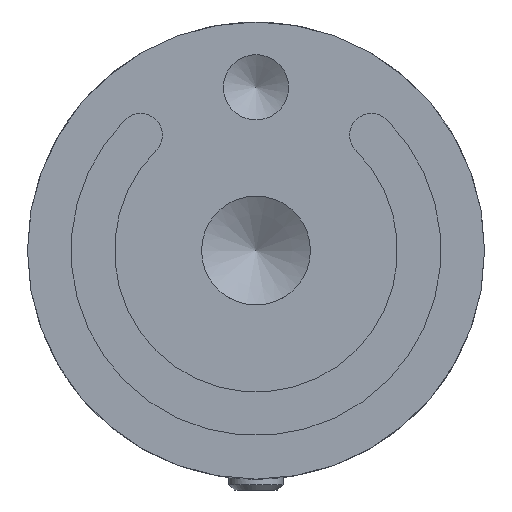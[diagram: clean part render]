
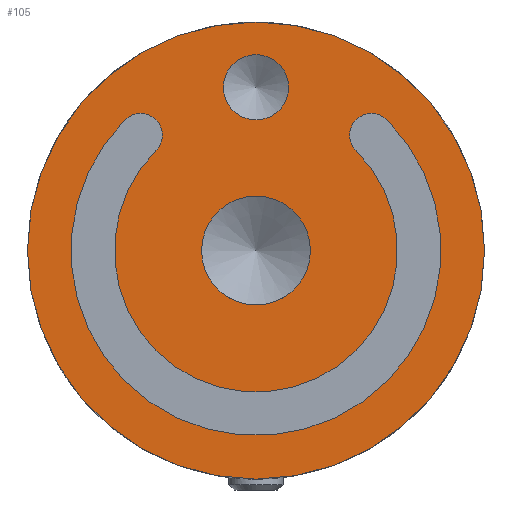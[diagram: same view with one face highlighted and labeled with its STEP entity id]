
A CAD part, front view. The second image highlights one B-rep face of the part: STEP entity #105.
In plain terms, the highlighted planar face has unit normal (0, -1, 0).
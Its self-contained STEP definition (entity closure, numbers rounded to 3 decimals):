
#105 = ADVANCED_FACE( '', ( #188, #189, #190, #191 ), #192, .F. );
#188 = FACE_BOUND( '', #289, .T. );
#189 = FACE_BOUND( '', #290, .T. );
#190 = FACE_OUTER_BOUND( '', #291, .T. );
#191 = FACE_BOUND( '', #292, .T. );
#192 = PLANE( '', #293 );
#289 = EDGE_LOOP( '', ( #545 ) );
#290 = EDGE_LOOP( '', ( #546, #547, #548, #549 ) );
#291 = EDGE_LOOP( '', ( #550 ) );
#292 = EDGE_LOOP( '', ( #551 ) );
#293 = AXIS2_PLACEMENT_3D( '', #552, #553, #554 );
#545 = ORIENTED_EDGE( '', *, *, #726, .F. );
#546 = ORIENTED_EDGE( '', *, *, #668, .T. );
#547 = ORIENTED_EDGE( '', *, *, #664, .T. );
#548 = ORIENTED_EDGE( '', *, *, #667, .F. );
#549 = ORIENTED_EDGE( '', *, *, #657, .T. );
#550 = ORIENTED_EDGE( '', *, *, #693, .T. );
#551 = ORIENTED_EDGE( '', *, *, #724, .T. );
#552 = CARTESIAN_POINT( '', ( 21., 0., 0. ) );
#553 = DIRECTION( '', ( 0., 1., 0. ) );
#554 = DIRECTION( '', ( -1., 0., 0. ) );
#657 = EDGE_CURVE( '', #766, #767, #768, .T. );
#664 = EDGE_CURVE( '', #775, #779, #781, .T. );
#667 = EDGE_CURVE( '', #766, #779, #784, .T. );
#668 = EDGE_CURVE( '', #767, #775, #785, .T. );
#693 = EDGE_CURVE( '', #828, #828, #829, .T. );
#724 = EDGE_CURVE( '', #883, #883, #884, .T. );
#726 = EDGE_CURVE( '', #885, #885, #886, .T. );
#766 = VERTEX_POINT( '', #951 );
#767 = VERTEX_POINT( '', #952 );
#768 = CIRCLE( '', #953, 2. );
#775 = VERTEX_POINT( '', #962 );
#779 = VERTEX_POINT( '', #967 );
#781 = CIRCLE( '', #970, 2. );
#784 = CIRCLE( '', #973, 13. );
#785 = CIRCLE( '', #974, 17. );
#828 = VERTEX_POINT( '', #1157 );
#829 = CIRCLE( '', #1158, 21. );
#883 = VERTEX_POINT( '', #1388 );
#884 = CIRCLE( '', #1389, 3. );
#885 = VERTEX_POINT( '', #1390 );
#886 = CIRCLE( '', #1391, 5. );
#951 = CARTESIAN_POINT( '', ( 9.192, 0., 9.192 ) );
#952 = CARTESIAN_POINT( '', ( 12.021, 0., 12.021 ) );
#953 = AXIS2_PLACEMENT_3D( '', #1446, #1447, #1448 );
#962 = CARTESIAN_POINT( '', ( -12.021, 0., 12.021 ) );
#967 = CARTESIAN_POINT( '', ( -9.192, 0., 9.192 ) );
#970 = AXIS2_PLACEMENT_3D( '', #1459, #1460, #1461 );
#973 = AXIS2_PLACEMENT_3D( '', #1468, #1469, #1470 );
#974 = AXIS2_PLACEMENT_3D( '', #1471, #1472, #1473 );
#1157 = CARTESIAN_POINT( '', ( 21., 0., 0. ) );
#1158 = AXIS2_PLACEMENT_3D( '', #1504, #1505, #1506 );
#1388 = CARTESIAN_POINT( '', ( 0., 0., 18. ) );
#1389 = AXIS2_PLACEMENT_3D( '', #1536, #1537, #1538 );
#1390 = CARTESIAN_POINT( '', ( 5., 0., 0. ) );
#1391 = AXIS2_PLACEMENT_3D( '', #1539, #1540, #1541 );
#1446 = CARTESIAN_POINT( '', ( 10.607, 0., 10.607 ) );
#1447 = DIRECTION( '', ( 0., 1., 0. ) );
#1448 = DIRECTION( '', ( 1., 0., 0. ) );
#1459 = CARTESIAN_POINT( '', ( -10.607, 0., 10.607 ) );
#1460 = DIRECTION( '', ( 0., 1., 0. ) );
#1461 = DIRECTION( '', ( 1., 0., 0. ) );
#1468 = CARTESIAN_POINT( '', ( 0., 0., 0. ) );
#1469 = DIRECTION( '', ( 0., 1., 0. ) );
#1470 = DIRECTION( '', ( 0., 0., 1. ) );
#1471 = CARTESIAN_POINT( '', ( 0., 0., 0. ) );
#1472 = DIRECTION( '', ( 0., 1., 0. ) );
#1473 = DIRECTION( '', ( 0., 0., 1. ) );
#1504 = CARTESIAN_POINT( '', ( 0., 0., 0. ) );
#1505 = DIRECTION( '', ( 0., -1., 0. ) );
#1506 = DIRECTION( '', ( 1., 0., 0. ) );
#1536 = CARTESIAN_POINT( '', ( 0., 0., 15. ) );
#1537 = DIRECTION( '', ( 0., 1., 0. ) );
#1538 = DIRECTION( '', ( 0., 0., 1. ) );
#1539 = CARTESIAN_POINT( '', ( 0., 0., 0. ) );
#1540 = DIRECTION( '', ( 0., -1., 0. ) );
#1541 = DIRECTION( '', ( 1., 0., 0. ) );
